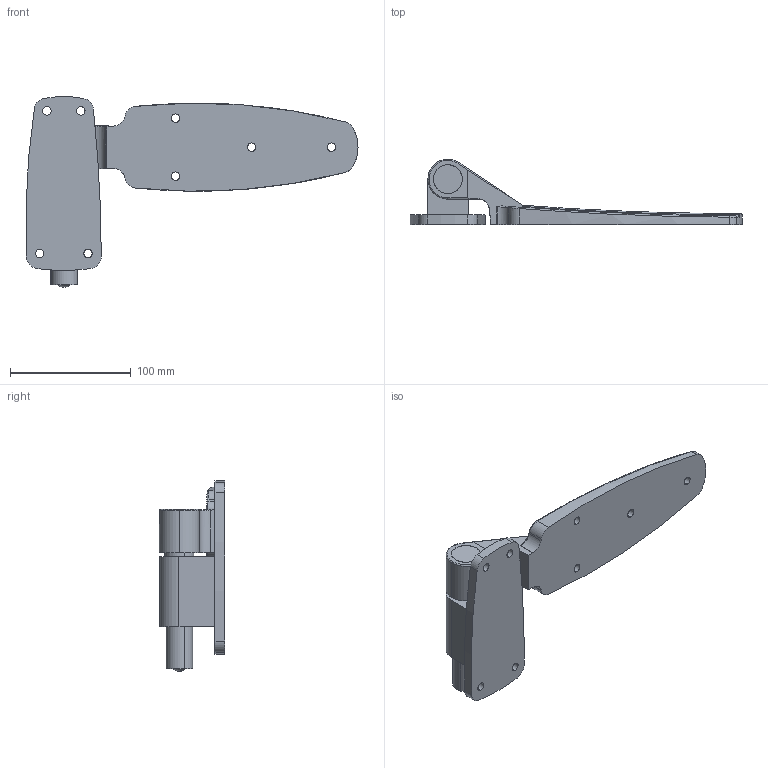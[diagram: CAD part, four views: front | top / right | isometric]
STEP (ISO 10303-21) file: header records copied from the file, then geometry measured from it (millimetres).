
FILE_DESCRIPTION (( 'STEP AP214' ), '1' );
FILE_NAME ('SK2-1230.STEP', '2020-03-25T03:15:23', ( 'admin' ), ( 'Microsoft' ), 'SwSTEP 2.0', 'SolidWorks 2018', '' );
FILE_SCHEMA (( 'AUTOMOTIVE_DESIGN' ));
Length unit declared in the file: millimetre
Products named in the file (4): 2-1230-F3; 2-1230-F1; 2-1230-F2; SK2-1230
Assembly tree (3 placements, depth 2):
  SK2-1230
    2-1230-F2
    2-1230-F1
    2-1230-F3
Bounding box: 274.85 x 54 x 157.81 mm (x, y, z)
Volume: 350074 mm3; surface area: 82665.2 mm2
Topology: 3 solids, 3 shells, 137 faces, 335 edges, 208 vertices
Faces by surface type: cylinder 69, plane 21, bspline 20, cone 16, torus 7, sphere 4
Entity records: 5572 total; most frequent: CARTESIAN_POINT 2266, ORIENTED_EDGE 670, DIRECTION 661, EDGE_CURVE 335, AXIS2_PLACEMENT_3D 275, VERTEX_POINT 208, EDGE_LOOP 161, CIRCLE 152
